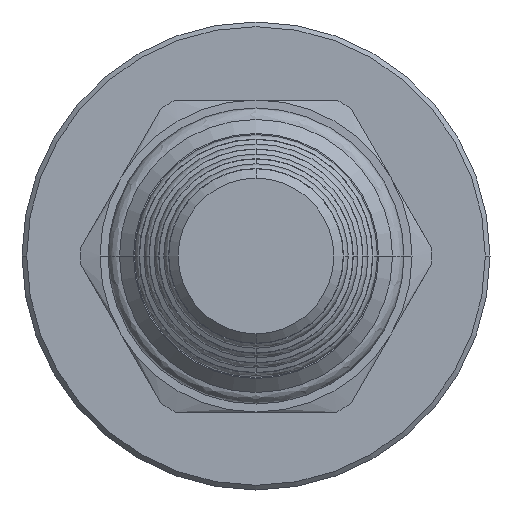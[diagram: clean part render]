
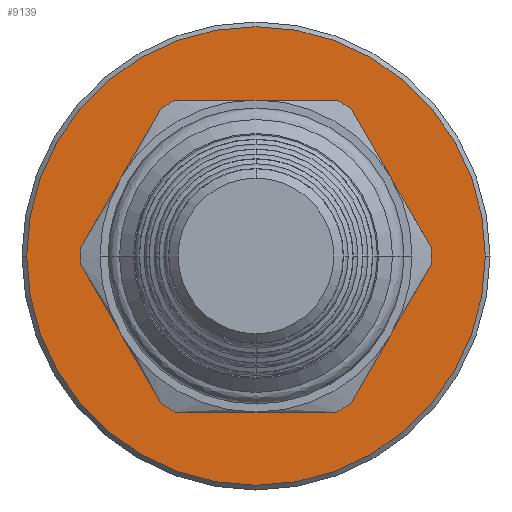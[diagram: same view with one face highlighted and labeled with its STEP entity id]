
A CAD part, front view. The second image highlights one B-rep face of the part: STEP entity #9139.
In plain terms, the highlighted planar face has unit normal (0, -1, 0).
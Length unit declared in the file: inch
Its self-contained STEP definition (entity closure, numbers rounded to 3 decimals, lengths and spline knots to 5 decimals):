
#8911=CARTESIAN_POINT('',(0.,5.49727,0.));
#8912=DIRECTION('',(0.,-1.,0.));
#8913=DIRECTION('',(-1.,0.,0.));
#8914=AXIS2_PLACEMENT_3D('',#8911,#8912,#8913);
#8916=CARTESIAN_POINT('',(0.,5.49727,0.));
#8917=DIRECTION('',(0.,-1.,0.));
#8918=DIRECTION('',(1.,0.,0.));
#8919=AXIS2_PLACEMENT_3D('',#8916,#8917,#8918);
#8921=CARTESIAN_POINT('',(0.,5.49727,0.));
#8922=DIRECTION('',(0.,-1.,0.));
#8923=DIRECTION('',(-1.,0.,0.));
#8924=AXIS2_PLACEMENT_3D('',#8921,#8922,#8923);
#8939=CARTESIAN_POINT('',(0.,5.49727,0.));
#8940=DIRECTION('',(0.,-1.,0.));
#8941=DIRECTION('',(1.,0.,0.));
#8942=AXIS2_PLACEMENT_3D('',#8939,#8940,#8941);
#9039=CARTESIAN_POINT('',(-0.375,5.49727,0.));
#9040=CARTESIAN_POINT('',(0.375,5.49727,0.));
#9041=VERTEX_POINT('',#9039);
#9042=VERTEX_POINT('',#9040);
#9043=CARTESIAN_POINT('',(0.735,5.49727,0.));
#9044=CARTESIAN_POINT('',(-0.735,5.49727,0.));
#9045=VERTEX_POINT('',#9043);
#9046=VERTEX_POINT('',#9044);
#9123=CARTESIAN_POINT('',(0.,5.49727,0.));
#9124=DIRECTION('',(0.,-1.,0.));
#9125=DIRECTION('',(-1.,0.,0.));
#9126=AXIS2_PLACEMENT_3D('',#9123,#9124,#9125);
#9127=PLANE('',#9126);
#9129=ORIENTED_EDGE('',*,*,#9128,.F.);
#9131=ORIENTED_EDGE('',*,*,#9130,.F.);
#9132=EDGE_LOOP('',(#9129,#9131));
#9133=FACE_OUTER_BOUND('',#9132,.F.);
#9134=ORIENTED_EDGE('',*,*,#9113,.T.);
#9136=ORIENTED_EDGE('',*,*,#9135,.T.);
#9137=EDGE_LOOP('',(#9134,#9136));
#9138=FACE_BOUND('',#9137,.F.);
#9139=ADVANCED_FACE('',(#9133,#9138),#9127,.T.);
#8915=CIRCLE('',#8914,0.375);
#8920=CIRCLE('',#8919,0.375);
#8925=CIRCLE('',#8924,0.735);
#8943=CIRCLE('',#8942,0.735);
#9113=EDGE_CURVE('',#9041,#9042,#8915,.T.);
#9128=EDGE_CURVE('',#9046,#9045,#8925,.T.);
#9130=EDGE_CURVE('',#9045,#9046,#8943,.T.);
#9135=EDGE_CURVE('',#9042,#9041,#8920,.T.);
